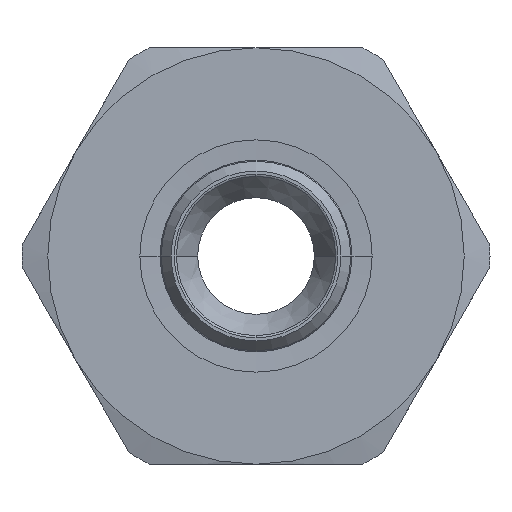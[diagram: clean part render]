
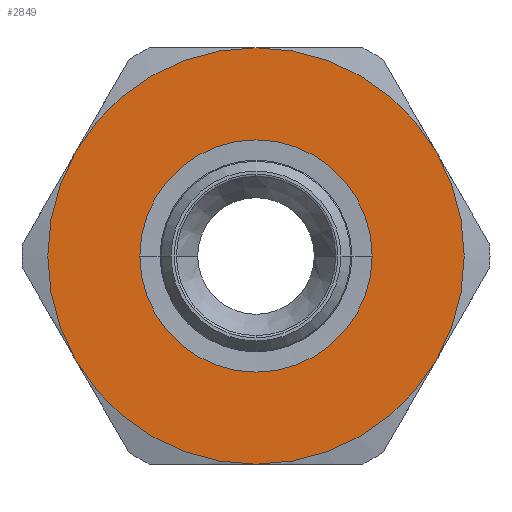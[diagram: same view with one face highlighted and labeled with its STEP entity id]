
A CAD part, left-side view. The second image highlights one B-rep face of the part: STEP entity #2849.
In plain terms, the highlighted planar face has unit normal (-1, 0, 0) as drawn and (0, 0, 1) by its records, which use the part's own axes.
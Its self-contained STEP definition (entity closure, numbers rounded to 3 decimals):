
#1176=CARTESIAN_POINT('',(0.,-13.95,6.));
#1177=VERTEX_POINT('',#1176);
#1193=CARTESIAN_POINT('',(0.,13.95,6.0));
#1194=VERTEX_POINT('',#1193);
#1201=CARTESIAN_POINT('',(0.,0.,6.0));
#1202=DIRECTION('',(0.0,0.0,-1.0));
#1203=DIRECTION('',(0.0,-1.0,0.0));
#1204=AXIS2_PLACEMENT_3D('',#1201,#1202,#1203);
#1205=CIRCLE('',#1204,13.95);
#1206=EDGE_CURVE('',#1177,#1194,#1205,.T.);
#1663=CARTESIAN_POINT('',(0.,0.,6.0));
#1664=DIRECTION('',(0.0,0.0,-1.0));
#1665=DIRECTION('',(0.0,-1.0,0.0));
#1666=AXIS2_PLACEMENT_3D('',#1663,#1664,#1665);
#1667=CIRCLE('',#1666,13.95);
#1668=EDGE_CURVE('',#1194,#1177,#1667,.T.);
#2222=CARTESIAN_POINT('',(12.5,-21.651,6.));
#2223=VERTEX_POINT('',#2222);
#2237=CARTESIAN_POINT('',(-12.5,-21.651,6.));
#2238=VERTEX_POINT('',#2237);
#2239=CARTESIAN_POINT('',(0.,0.0,6.0));
#2240=DIRECTION('',(0.0,0.0,1.0));
#2241=DIRECTION('',(1.0,0.0,0.0));
#2242=AXIS2_PLACEMENT_3D('',#2239,#2240,#2241);
#2243=CIRCLE('',#2242,25.);
#2244=EDGE_CURVE('',#2238,#2223,#2243,.T.);
#2322=CARTESIAN_POINT('',(-25.0,0.,6.));
#2323=VERTEX_POINT('',#2322);
#2324=CARTESIAN_POINT('',(0.,0.0,6.0));
#2325=DIRECTION('',(0.0,0.0,1.0));
#2326=DIRECTION('',(1.0,0.0,0.0));
#2327=AXIS2_PLACEMENT_3D('',#2324,#2325,#2326);
#2328=CIRCLE('',#2327,25.);
#2329=EDGE_CURVE('',#2323,#2238,#2328,.T.);
#2406=CARTESIAN_POINT('',(-12.5,21.651,6.));
#2407=VERTEX_POINT('',#2406);
#2408=CARTESIAN_POINT('',(0.,0.0,6.0));
#2409=DIRECTION('',(0.0,0.0,1.0));
#2410=DIRECTION('',(1.0,0.0,0.0));
#2411=AXIS2_PLACEMENT_3D('',#2408,#2409,#2410);
#2412=CIRCLE('',#2411,25.);
#2413=EDGE_CURVE('',#2407,#2323,#2412,.T.);
#2490=CARTESIAN_POINT('',(12.5,21.651,6.));
#2491=VERTEX_POINT('',#2490);
#2492=CARTESIAN_POINT('',(0.,0.0,6.0));
#2493=DIRECTION('',(0.0,0.0,1.0));
#2494=DIRECTION('',(1.0,0.0,0.0));
#2495=AXIS2_PLACEMENT_3D('',#2492,#2493,#2494);
#2496=CIRCLE('',#2495,25.);
#2497=EDGE_CURVE('',#2491,#2407,#2496,.T.);
#2575=CARTESIAN_POINT('',(25.0,0.0,6.));
#2576=VERTEX_POINT('',#2575);
#2577=CARTESIAN_POINT('',(0.,0.0,6.0));
#2578=DIRECTION('',(0.0,0.0,1.0));
#2579=DIRECTION('',(1.0,0.0,0.0));
#2580=AXIS2_PLACEMENT_3D('',#2577,#2578,#2579);
#2581=CIRCLE('',#2580,25.);
#2582=EDGE_CURVE('',#2576,#2491,#2581,.T.);
#2659=CARTESIAN_POINT('',(0.,0.0,6.0));
#2660=DIRECTION('',(0.0,0.0,1.0));
#2661=DIRECTION('',(1.0,0.0,0.0));
#2662=AXIS2_PLACEMENT_3D('',#2659,#2660,#2661);
#2663=CIRCLE('',#2662,25.);
#2664=EDGE_CURVE('',#2223,#2576,#2663,.T.);
#2832=CARTESIAN_POINT('',(0.,0.,6.0));
#2833=DIRECTION('',(0.0,0.0,1.0));
#2834=DIRECTION('',(1.0,0.0,0.0));
#2835=AXIS2_PLACEMENT_3D('',#2832,#2833,#2834);
#2836=PLANE('',#2835);
#2837=ORIENTED_EDGE('',*,*,#2664,.T.);
#2838=ORIENTED_EDGE('',*,*,#2582,.T.);
#2839=ORIENTED_EDGE('',*,*,#2497,.T.);
#2840=ORIENTED_EDGE('',*,*,#2413,.T.);
#2841=ORIENTED_EDGE('',*,*,#2329,.T.);
#2842=ORIENTED_EDGE('',*,*,#2244,.T.);
#2843=EDGE_LOOP('',(#2837,#2838,#2839,#2840,#2841,#2842));
#2844=FACE_OUTER_BOUND('',#2843,.T.);
#2845=ORIENTED_EDGE('',*,*,#1206,.T.);
#2846=ORIENTED_EDGE('',*,*,#1668,.T.);
#2847=EDGE_LOOP('',(#2845,#2846));
#2848=FACE_BOUND('',#2847,.T.);
#2849=ADVANCED_FACE('',(#2844,#2848),#2836,.T.);
